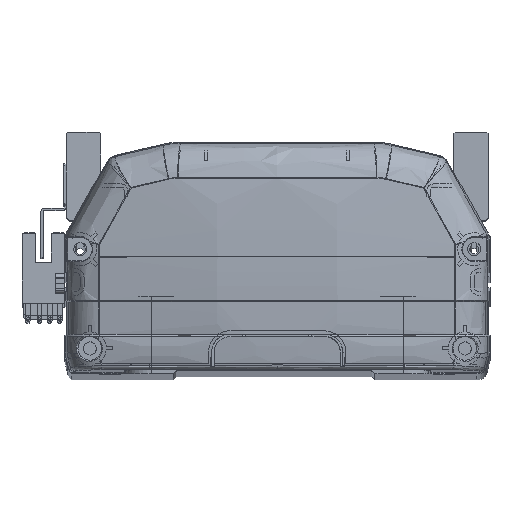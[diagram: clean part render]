
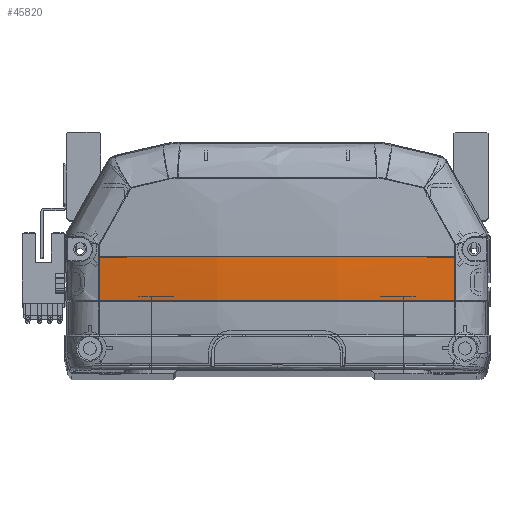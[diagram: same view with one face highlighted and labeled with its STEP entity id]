
A CAD part, top view. The second image highlights one B-rep face of the part: STEP entity #45820.
In plain terms, the highlighted free-form (B-spline) face has degree [3, 3] with [4, 4] control points.
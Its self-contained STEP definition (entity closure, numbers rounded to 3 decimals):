
#518 = EDGE_CURVE ( 'NONE', #17252, #16505, #5773, .T. ) ;
#926 = CARTESIAN_POINT ( 'NONE',  ( -56.661, 22.225, -4.818 ) ) ;
#2689 = CARTESIAN_POINT ( 'NONE',  ( 23.877, 22.225, -8.763 ) ) ;
#2701 = CARTESIAN_POINT ( 'NONE',  ( 56.647, 35.969, -5.158 ) ) ;
#3252 = DIRECTION ( 'NONE',  ( 0., 1., 0. ) ) ;
#4245 = EDGE_CURVE ( 'NONE', #46599, #5388, #40597, .T. ) ;
#5388 = VERTEX_POINT ( 'NONE', #17554 ) ;
#5773 = CIRCLE ( 'NONE', #11530, 6395.966 ) ;
#6381 = CARTESIAN_POINT ( 'NONE',  ( 11.954, 22.225, -9.367 ) ) ;
#6394 = CARTESIAN_POINT ( 'NONE',  ( 56.647, 31.387, -5.158 ) ) ;
#6540 = CARTESIAN_POINT ( 'NONE',  ( -56.661, 22.225, -4.818 ) ) ;
#7862 = CARTESIAN_POINT ( 'NONE',  ( 56.661, 22.225, -4.818 ) ) ;
#8156 = CARTESIAN_POINT ( 'NONE',  ( -56.647, 31.405, -5.158 ) ) ;
#9098 = CARTESIAN_POINT ( 'NONE',  ( 19.295, 36., -11.535 ) ) ;
#9813 = CARTESIAN_POINT ( 'NONE',  ( -56.647, 36., -5.158 ) ) ;
#9959 = CARTESIAN_POINT ( 'NONE',  ( -19.28, 22.225, -9.565 ) ) ;
#10122 = CARTESIAN_POINT ( 'NONE',  ( -38.235, 22.225, -7.93 ) ) ;
#10256 = CARTESIAN_POINT ( 'NONE',  ( 19.295, 26.549, -11.419 ) ) ;
#10408 = CARTESIAN_POINT ( 'NONE',  ( 19.295, 31.274, -11.535 ) ) ;
#11530 = AXIS2_PLACEMENT_3D ( 'NONE', #40332, #18270, #43999 ) ;
#12959 = ORIENTED_EDGE ( 'NONE', *, *, #47278, .F. ) ;
#13554 = ORIENTED_EDGE ( 'NONE', *, *, #518, .F. ) ;
#14407 = EDGE_CURVE ( 'NONE', #44797, #5388, #35052, .T. ) ;
#14547 = ORIENTED_EDGE ( 'NONE', *, *, #4245, .F. ) ;
#14557 = DIRECTION ( 'NONE',  ( 0., 0., -1. ) ) ;
#15224 = AXIS2_PLACEMENT_3D ( 'NONE', #28862, #3252, #14557 ) ;
#15376 = CARTESIAN_POINT ( 'NONE',  ( 56.647, 35.969, -5.158 ) ) ;
#16505 = VERTEX_POINT ( 'NONE', #24781 ) ;
#16511 = CARTESIAN_POINT ( 'NONE',  ( -57.335, 26.762, -4.928 ) ) ;
#17080 = FACE_OUTER_BOUND ( 'NONE', #43227, .T. ) ;
#17252 = VERTEX_POINT ( 'NONE', #15376 ) ;
#17554 = CARTESIAN_POINT ( 'NONE',  ( -56.661, 22.225, -4.818 ) ) ;
#17647 = CARTESIAN_POINT ( 'NONE',  ( 19.295, 21.828, -11.186 ) ) ;
#18270 = DIRECTION ( 'NONE',  ( 0., 0., -1. ) ) ;
#18419 = ORIENTED_EDGE ( 'NONE', *, *, #14407, .T. ) ;
#19124 = CARTESIAN_POINT ( 'NONE',  ( -56.647, 36., -5.158 ) ) ;
#21005 = CARTESIAN_POINT ( 'NONE',  ( -57.335, 36., -5.042 ) ) ;
#21181 = CARTESIAN_POINT ( 'NONE',  ( 19.121, 22.225, -9.064 ) ) ;
#22253 =( BOUNDED_SURFACE ( )  B_SPLINE_SURFACE ( 3, 3, ( 
 ( #42240, #35630, #32251, #32093 ),
 ( #17647, #10256, #10408, #9098 ),
 ( #36115, #45928, #43051, #35960 ),
 ( #47087, #16511, #23873, #21005 ) ),
 .UNSPECIFIED., .F., .F., .F. ) 
 B_SPLINE_SURFACE_WITH_KNOTS ( ( 4, 4 ),
 ( 4, 4 ),
 ( 0., 1. ),
 ( 0., 1. ),
 .UNSPECIFIED. ) 
 GEOMETRIC_REPRESENTATION_ITEM ( )  RATIONAL_B_SPLINE_SURFACE ( (
 ( 1., 1., 1., 1.),
 ( 0.99, 0.99, 0.99, 0.99),
 ( 0.99, 0.99, 0.99, 0.99),
 ( 1., 1., 1., 1.) ) ) 
 REPRESENTATION_ITEM ( '' )  SURFACE ( )  );
#23873 = CARTESIAN_POINT ( 'NONE',  ( -57.335, 31.38, -5.042 ) ) ;
#24781 = CARTESIAN_POINT ( 'NONE',  ( 56.647, 36., -5.158 ) ) ;
#24897 = CARTESIAN_POINT ( 'NONE',  ( 2.357, 22.225, -9.562 ) ) ;
#28084 = ORIENTED_EDGE ( 'NONE', *, *, #31930, .F. ) ;
#28608 = CARTESIAN_POINT ( 'NONE',  ( 8.363, 22.225, -9.48 ) ) ;
#28765 = CARTESIAN_POINT ( 'NONE',  ( 4.761, 22.225, -9.537 ) ) ;
#28862 = CARTESIAN_POINT ( 'NONE',  ( 0., 36., 330.833 ) ) ;
#31930 = EDGE_CURVE ( 'NONE', #16505, #46599, #41159, .T. ) ;
#31967 = CARTESIAN_POINT ( 'NONE',  ( 56.661, 22.225, -4.818 ) ) ;
#32093 = CARTESIAN_POINT ( 'NONE',  ( 57.335, 36., -5.042 ) ) ;
#32251 = CARTESIAN_POINT ( 'NONE',  ( 57.335, 31.38, -5.042 ) ) ;
#32433 = CARTESIAN_POINT ( 'NONE',  ( 47.432, 22.225, -6.377 ) ) ;
#35052 = B_SPLINE_CURVE_WITH_KNOTS ( 'NONE', 3,
 ( #31967, #32433, #43075, #2689, #21181, #6381, #28608, #28765, #24897, #39898, #9959, #10122, #6540 ),
 .UNSPECIFIED., .F., .F.,
 ( 4, 2, 2, 1, 2, 2, 4 ),
 ( 0., 0.25, 0.375, 0.438, 0.469, 0.5, 1. ),
 .UNSPECIFIED. ) ;
#35630 = CARTESIAN_POINT ( 'NONE',  ( 57.335, 26.762, -4.928 ) ) ;
#35960 = CARTESIAN_POINT ( 'NONE',  ( -19.295, 36., -11.535 ) ) ;
#36115 = CARTESIAN_POINT ( 'NONE',  ( -19.295, 21.828, -11.186 ) ) ;
#37788 = CARTESIAN_POINT ( 'NONE',  ( -56.652, 26.814, -5.045 ) ) ;
#38023 = CARTESIAN_POINT ( 'NONE',  ( 56.652, 26.806, -5.044 ) ) ;
#39898 = CARTESIAN_POINT ( 'NONE',  ( 1.152, 22.225, -9.568 ) ) ;
#40332 = CARTESIAN_POINT ( 'NONE',  ( 6452.613, 35.969, -5.158 ) ) ;
#40597 = B_SPLINE_CURVE_WITH_KNOTS ( 'NONE', 3,
 ( #19124, #8156, #37788, #926 ),
 .UNSPECIFIED., .F., .F.,
 ( 4, 4 ),
 ( 0., 1. ),
 .UNSPECIFIED. ) ;
#41159 = CIRCLE ( 'NONE', #15224, 340.733 ) ;
#41545 = CARTESIAN_POINT ( 'NONE',  ( 56.661, 22.225, -4.818 ) ) ;
#42240 = CARTESIAN_POINT ( 'NONE',  ( 57.335, 22.148, -4.7 ) ) ;
#43051 = CARTESIAN_POINT ( 'NONE',  ( -19.295, 31.274, -11.535 ) ) ;
#43075 = CARTESIAN_POINT ( 'NONE',  ( 38.071, 22.225, -7.566 ) ) ;
#43227 = EDGE_LOOP ( 'NONE', ( #28084, #13554, #12959, #18419, #14547 ) ) ;
#43960 = B_SPLINE_CURVE_WITH_KNOTS ( 'NONE', 3,
 ( #41545, #38023, #6394, #2701 ),
 .UNSPECIFIED., .F., .F.,
 ( 4, 4 ),
 ( 0., 1. ),
 .UNSPECIFIED. ) ;
#43999 = DIRECTION ( 'NONE',  ( -1., 0., 0. ) ) ;
#44797 = VERTEX_POINT ( 'NONE', #7862 ) ;
#45820 = ADVANCED_FACE ( 'NONE', ( #17080 ), #22253, .T. ) ;
#45928 = CARTESIAN_POINT ( 'NONE',  ( -19.295, 26.549, -11.419 ) ) ;
#46599 = VERTEX_POINT ( 'NONE', #9813 ) ;
#47087 = CARTESIAN_POINT ( 'NONE',  ( -57.335, 22.148, -4.7 ) ) ;
#47278 = EDGE_CURVE ( 'NONE', #44797, #17252, #43960, .T. ) ;
